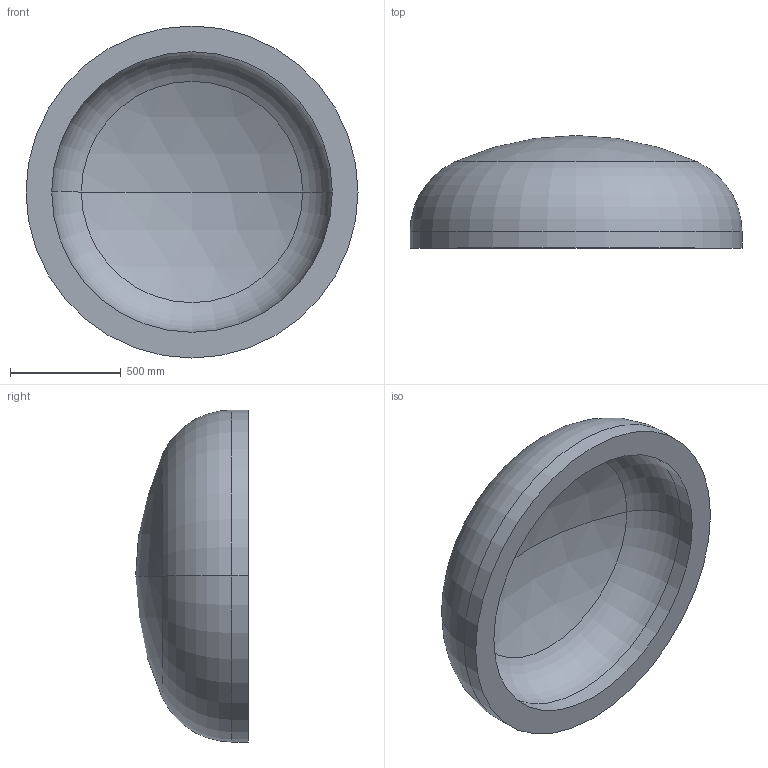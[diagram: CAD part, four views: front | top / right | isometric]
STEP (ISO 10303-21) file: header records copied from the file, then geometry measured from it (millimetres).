
FILE_DESCRIPTION (( 'STEP AP203' ), '1' );
FILE_NAME ('DIN 28013 Korbbogenform_-_Boden DIN 28013 - 1500 x 75 - I - s=116.step', '2016-07-01T11:00:51', ( '' ), ( '' ), 'SwSTEP 2.0', 'SolidWorks 2013', '' );
FILE_SCHEMA (( 'CONFIG_CONTROL_DESIGN' ));
Length unit declared in the file: millimetre
Products named in the file (1): DIN 28013 Korbbogenform_-_Boden DIN 28013 - 1500 x 75 - I - s=116
Bounding box: 1500 x 509.14 x 1500 mm (x, y, z)
Volume: 295188162 mm3; surface area: 5621996 mm2
Topology: 1 solids, 1 shells, 13 faces, 24 edges, 14 vertices
Faces by surface type: torus 4, cylinder 4, sphere 4, plane 1
Entity records: 407 total; most frequent: DIRECTION 72, CARTESIAN_POINT 52, ORIENTED_EDGE 48, AXIS2_PLACEMENT_3D 34, EDGE_CURVE 24, CIRCLE 20, VERTEX_POINT 14, EDGE_LOOP 14
